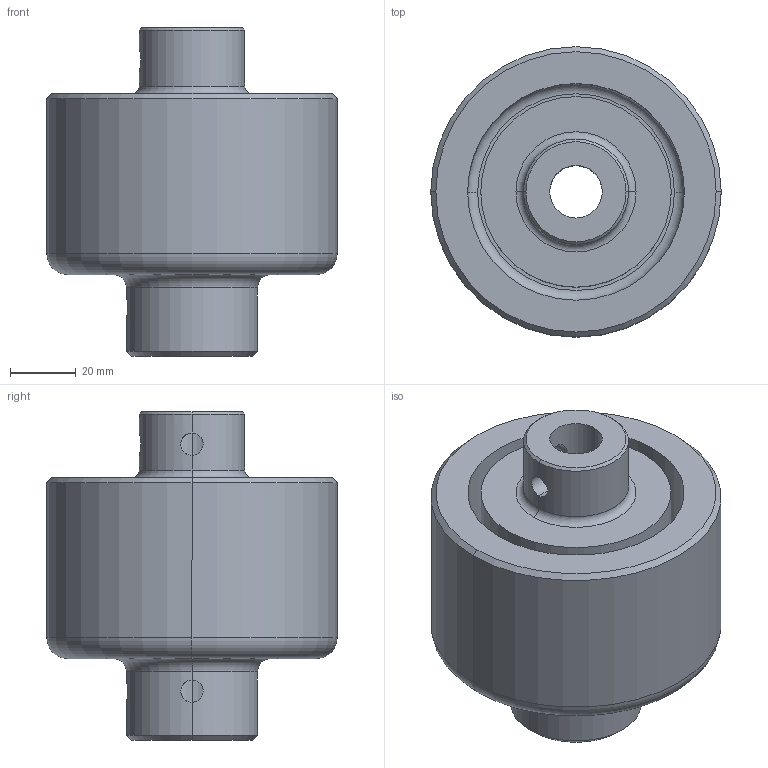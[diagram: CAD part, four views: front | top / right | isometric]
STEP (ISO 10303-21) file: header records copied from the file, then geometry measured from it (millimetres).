
FILE_DESCRIPTION (( 'STEP AP214' ), '1' );
FILE_NAME ('mobac_MTC-10.STEP', '2023-05-09T08:25:40', ( '' ), ( '' ), 'SwSTEP 2.0', 'SolidWorks 2022', '' );
FILE_SCHEMA (( 'AUTOMOTIVE_DESIGN' ));
Length unit declared in the file: millimetre
Products named in the file (1): mobac_MTC-10
Bounding box: 88.39 x 88.39 x 100.08 mm (x, y, z)
Volume: 283255.8 mm3; surface area: 57097 mm2
Topology: 2 solids, 2 shells, 43 faces, 98 edges, 58 vertices
Faces by surface type: cylinder 22, torus 8, plane 7, cone 6
Entity records: 1845 total; most frequent: CARTESIAN_POINT 716, DIRECTION 220, ORIENTED_EDGE 196, EDGE_CURVE 98, AXIS2_PLACEMENT_3D 94, VERTEX_POINT 58, EDGE_LOOP 54, CIRCLE 50
